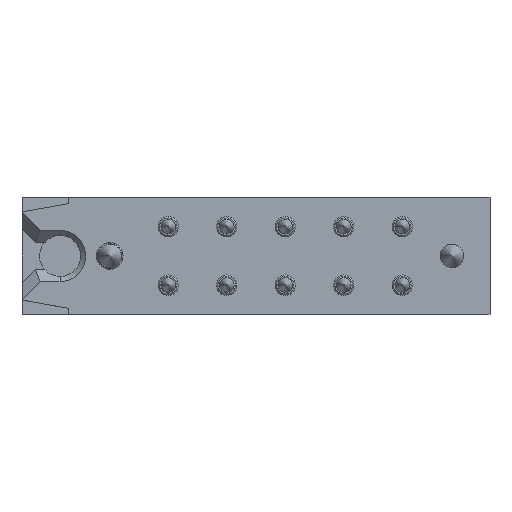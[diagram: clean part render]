
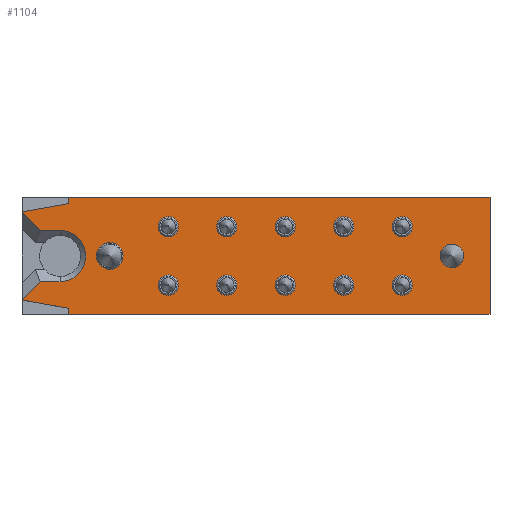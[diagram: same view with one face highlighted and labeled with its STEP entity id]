
A CAD part, top view. The second image highlights one B-rep face of the part: STEP entity #1104.
In plain terms, the highlighted planar face has unit normal (0, 0, 1).
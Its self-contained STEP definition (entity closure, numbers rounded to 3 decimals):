
#179=CIRCLE('',#1240,3.5);
#180=CIRCLE('',#1241,3.5);
#181=CIRCLE('',#1242,3.5);
#182=CIRCLE('',#1243,3.5);
#183=CIRCLE('',#1244,3.5);
#184=CIRCLE('',#1245,3.5);
#185=CIRCLE('',#1246,3.5);
#186=CIRCLE('',#1247,3.5);
#187=CIRCLE('',#1248,4.);
#188=CIRCLE('',#1249,3.5);
#189=CIRCLE('',#1250,3.5);
#190=CIRCLE('',#1251,4.55);
#191=CIRCLE('',#1252,8.75);
#265=ORIENTED_EDGE('',*,*,#491,.T.);
#266=ORIENTED_EDGE('',*,*,#492,.T.);
#267=ORIENTED_EDGE('',*,*,#493,.T.);
#268=ORIENTED_EDGE('',*,*,#494,.T.);
#269=ORIENTED_EDGE('',*,*,#495,.T.);
#270=ORIENTED_EDGE('',*,*,#496,.T.);
#271=ORIENTED_EDGE('',*,*,#497,.T.);
#272=ORIENTED_EDGE('',*,*,#498,.T.);
#273=ORIENTED_EDGE('',*,*,#499,.T.);
#274=ORIENTED_EDGE('',*,*,#500,.T.);
#275=ORIENTED_EDGE('',*,*,#501,.T.);
#276=ORIENTED_EDGE('',*,*,#502,.T.);
#277=ORIENTED_EDGE('',*,*,#503,.T.);
#278=ORIENTED_EDGE('',*,*,#504,.T.);
#279=ORIENTED_EDGE('',*,*,#471,.F.);
#280=ORIENTED_EDGE('',*,*,#505,.F.);
#281=ORIENTED_EDGE('',*,*,#506,.F.);
#282=ORIENTED_EDGE('',*,*,#490,.F.);
#283=ORIENTED_EDGE('',*,*,#486,.F.);
#284=ORIENTED_EDGE('',*,*,#482,.F.);
#285=ORIENTED_EDGE('',*,*,#507,.F.);
#286=ORIENTED_EDGE('',*,*,#508,.F.);
#287=ORIENTED_EDGE('',*,*,#478,.F.);
#288=ORIENTED_EDGE('',*,*,#509,.T.);
#289=ORIENTED_EDGE('',*,*,#510,.T.);
#290=ORIENTED_EDGE('',*,*,#511,.T.);
#471=EDGE_CURVE('',#585,#586,#682,.T.);
#478=EDGE_CURVE('',#592,#593,#689,.T.);
#482=EDGE_CURVE('',#596,#597,#693,.T.);
#486=EDGE_CURVE('',#597,#600,#697,.T.);
#490=EDGE_CURVE('',#600,#602,#701,.T.);
#491=EDGE_CURVE('',#603,#603,#179,.T.);
#492=EDGE_CURVE('',#604,#604,#180,.T.);
#493=EDGE_CURVE('',#605,#605,#181,.T.);
#494=EDGE_CURVE('',#606,#606,#182,.T.);
#495=EDGE_CURVE('',#607,#607,#183,.T.);
#496=EDGE_CURVE('',#608,#608,#184,.T.);
#497=EDGE_CURVE('',#609,#609,#185,.T.);
#498=EDGE_CURVE('',#610,#610,#186,.T.);
#499=EDGE_CURVE('',#611,#611,#187,.T.);
#500=EDGE_CURVE('',#612,#612,#188,.T.);
#501=EDGE_CURVE('',#613,#613,#189,.T.);
#502=EDGE_CURVE('',#614,#614,#190,.T.);
#503=EDGE_CURVE('',#615,#616,#702,.T.);
#504=EDGE_CURVE('',#616,#586,#703,.T.);
#505=EDGE_CURVE('',#617,#585,#704,.T.);
#506=EDGE_CURVE('',#602,#617,#705,.T.);
#507=EDGE_CURVE('',#618,#596,#706,.T.);
#508=EDGE_CURVE('',#593,#618,#707,.T.);
#509=EDGE_CURVE('',#592,#619,#708,.T.);
#510=EDGE_CURVE('',#619,#620,#709,.T.);
#511=EDGE_CURVE('',#620,#615,#191,.T.);
#585=VERTEX_POINT('',#1781);
#586=VERTEX_POINT('',#1782);
#592=VERTEX_POINT('',#1795);
#593=VERTEX_POINT('',#1797);
#596=VERTEX_POINT('',#1804);
#597=VERTEX_POINT('',#1806);
#600=VERTEX_POINT('',#1814);
#602=VERTEX_POINT('',#1819);
#603=VERTEX_POINT('',#1824);
#604=VERTEX_POINT('',#1826);
#605=VERTEX_POINT('',#1828);
#606=VERTEX_POINT('',#1830);
#607=VERTEX_POINT('',#1832);
#608=VERTEX_POINT('',#1834);
#609=VERTEX_POINT('',#1836);
#610=VERTEX_POINT('',#1838);
#611=VERTEX_POINT('',#1840);
#612=VERTEX_POINT('',#1842);
#613=VERTEX_POINT('',#1844);
#614=VERTEX_POINT('',#1846);
#615=VERTEX_POINT('',#1848);
#616=VERTEX_POINT('',#1849);
#617=VERTEX_POINT('',#1852);
#618=VERTEX_POINT('',#1855);
#619=VERTEX_POINT('',#1858);
#620=VERTEX_POINT('',#1860);
#682=LINE('',#1780,#732);
#689=LINE('',#1796,#739);
#693=LINE('',#1805,#743);
#697=LINE('',#1813,#747);
#701=LINE('',#1821,#751);
#702=LINE('',#1847,#752);
#703=LINE('',#1850,#753);
#704=LINE('',#1851,#754);
#705=LINE('',#1853,#755);
#706=LINE('',#1854,#756);
#707=LINE('',#1856,#757);
#708=LINE('',#1857,#758);
#709=LINE('',#1859,#759);
#732=VECTOR('',#1402,1000.);
#739=VECTOR('',#1411,1000.);
#743=VECTOR('',#1417,1000.);
#747=VECTOR('',#1423,1000.);
#751=VECTOR('',#1429,1000.);
#752=VECTOR('',#1456,1000.);
#753=VECTOR('',#1457,1000.);
#754=VECTOR('',#1458,1000.);
#755=VECTOR('',#1459,1000.);
#756=VECTOR('',#1460,1000.);
#757=VECTOR('',#1461,1000.);
#758=VECTOR('',#1462,1000.);
#759=VECTOR('',#1463,1000.);
#787=EDGE_LOOP('',(#265));
#788=EDGE_LOOP('',(#266));
#789=EDGE_LOOP('',(#267));
#790=EDGE_LOOP('',(#268));
#791=EDGE_LOOP('',(#269));
#792=EDGE_LOOP('',(#270));
#793=EDGE_LOOP('',(#271));
#794=EDGE_LOOP('',(#272));
#795=EDGE_LOOP('',(#273));
#796=EDGE_LOOP('',(#274));
#797=EDGE_LOOP('',(#275));
#798=EDGE_LOOP('',(#276));
#799=EDGE_LOOP('',(#277,#278,#279,#280,#281,#282,#283,#284,#285,#286,#287,
#288,#289,#290));
#930=FACE_BOUND('',#787,.T.);
#931=FACE_BOUND('',#788,.T.);
#932=FACE_BOUND('',#789,.T.);
#933=FACE_BOUND('',#790,.T.);
#934=FACE_BOUND('',#791,.T.);
#935=FACE_BOUND('',#792,.T.);
#936=FACE_BOUND('',#793,.T.);
#937=FACE_BOUND('',#794,.T.);
#938=FACE_BOUND('',#795,.T.);
#939=FACE_BOUND('',#796,.T.);
#940=FACE_BOUND('',#797,.T.);
#941=FACE_BOUND('',#798,.T.);
#942=FACE_BOUND('',#799,.T.);
#1075=PLANE('',#1239);
#1104=ADVANCED_FACE('',(#930,#931,#932,#933,#934,#935,#936,#937,#938,#939,
#940,#941,#942),#1075,.F.);
#1239=AXIS2_PLACEMENT_3D('',#1822,#1430,#1431);
#1240=AXIS2_PLACEMENT_3D('',#1823,#1432,#1433);
#1241=AXIS2_PLACEMENT_3D('',#1825,#1434,#1435);
#1242=AXIS2_PLACEMENT_3D('',#1827,#1436,#1437);
#1243=AXIS2_PLACEMENT_3D('',#1829,#1438,#1439);
#1244=AXIS2_PLACEMENT_3D('',#1831,#1440,#1441);
#1245=AXIS2_PLACEMENT_3D('',#1833,#1442,#1443);
#1246=AXIS2_PLACEMENT_3D('',#1835,#1444,#1445);
#1247=AXIS2_PLACEMENT_3D('',#1837,#1446,#1447);
#1248=AXIS2_PLACEMENT_3D('',#1839,#1448,#1449);
#1249=AXIS2_PLACEMENT_3D('',#1841,#1450,#1451);
#1250=AXIS2_PLACEMENT_3D('',#1843,#1452,#1453);
#1251=AXIS2_PLACEMENT_3D('',#1845,#1454,#1455);
#1252=AXIS2_PLACEMENT_3D('',#1861,#1464,#1465);
#1402=DIRECTION('',(0.,1.,0.));
#1411=DIRECTION('',(0.,1.,0.));
#1417=DIRECTION('',(1.,0.,0.));
#1423=DIRECTION('',(0.,-1.,0.));
#1429=DIRECTION('',(-1.,0.,0.));
#1430=DIRECTION('',(0.,0.,-1.));
#1431=DIRECTION('',(-1.,0.,0.));
#1432=DIRECTION('',(0.,0.,-1.));
#1433=DIRECTION('',(-1.,0.,0.));
#1434=DIRECTION('',(0.,0.,-1.));
#1435=DIRECTION('',(-1.,0.,0.));
#1436=DIRECTION('',(0.,0.,-1.));
#1437=DIRECTION('',(-1.,0.,0.));
#1438=DIRECTION('',(0.,0.,-1.));
#1439=DIRECTION('',(-1.,0.,0.));
#1440=DIRECTION('',(0.,0.,-1.));
#1441=DIRECTION('',(-1.,0.,0.));
#1442=DIRECTION('',(0.,0.,-1.));
#1443=DIRECTION('',(-1.,0.,0.));
#1444=DIRECTION('',(0.,0.,-1.));
#1445=DIRECTION('',(-1.,0.,0.));
#1446=DIRECTION('',(0.,0.,-1.));
#1447=DIRECTION('',(-1.,0.,0.));
#1448=DIRECTION('',(0.,0.,-1.));
#1449=DIRECTION('',(-1.,0.,0.));
#1450=DIRECTION('',(0.,0.,-1.));
#1451=DIRECTION('',(-1.,0.,0.));
#1452=DIRECTION('',(0.,0.,-1.));
#1453=DIRECTION('',(-1.,0.,0.));
#1454=DIRECTION('',(0.,0.,-1.));
#1455=DIRECTION('',(-1.,0.,0.));
#1456=DIRECTION('',(-1.,0.,0.));
#1457=DIRECTION('',(-0.707,-0.707,0.));
#1458=DIRECTION('',(-0.985,0.174,0.));
#1459=DIRECTION('',(0.,1.,0.));
#1460=DIRECTION('',(0.,1.,0.));
#1461=DIRECTION('',(0.985,0.174,0.));
#1462=DIRECTION('',(0.707,-0.707,0.));
#1463=DIRECTION('',(1.,0.,0.));
#1464=DIRECTION('',(0.,0.,-1.));
#1465=DIRECTION('',(-1.,0.,0.));
#1780=CARTESIAN_POINT('',(0.,-20.,5.));
#1781=CARTESIAN_POINT('',(0.,-15.087,5.));
#1782=CARTESIAN_POINT('',(0.,-14.99,5.));
#1795=CARTESIAN_POINT('',(0.,14.99,5.));
#1796=CARTESIAN_POINT('',(0.,-20.,5.));
#1797=CARTESIAN_POINT('',(0.,15.087,5.));
#1804=CARTESIAN_POINT('',(15.908,20.,5.));
#1805=CARTESIAN_POINT('',(0.,20.,5.));
#1806=CARTESIAN_POINT('',(160.,20.,5.));
#1813=CARTESIAN_POINT('',(160.,20.,5.));
#1814=CARTESIAN_POINT('',(160.,-20.,5.));
#1819=CARTESIAN_POINT('',(15.908,-20.,5.));
#1821=CARTESIAN_POINT('',(160.,-20.,5.));
#1822=CARTESIAN_POINT('',(0.,0.,5.));
#1823=CARTESIAN_POINT('',(50.,10.,5.));
#1824=CARTESIAN_POINT('',(46.5,10.,5.));
#1825=CARTESIAN_POINT('',(50.,-10.,5.));
#1826=CARTESIAN_POINT('',(46.5,-10.,5.));
#1827=CARTESIAN_POINT('',(70.,10.,5.));
#1828=CARTESIAN_POINT('',(66.5,10.,5.));
#1829=CARTESIAN_POINT('',(70.,-10.,5.));
#1830=CARTESIAN_POINT('',(66.5,-10.,5.));
#1831=CARTESIAN_POINT('',(90.,10.,5.));
#1832=CARTESIAN_POINT('',(86.5,10.,5.));
#1833=CARTESIAN_POINT('',(90.,-10.,5.));
#1834=CARTESIAN_POINT('',(86.5,-10.,5.));
#1835=CARTESIAN_POINT('',(110.,10.,5.));
#1836=CARTESIAN_POINT('',(106.5,10.,5.));
#1837=CARTESIAN_POINT('',(110.,-10.,5.));
#1838=CARTESIAN_POINT('',(106.5,-10.,5.));
#1839=CARTESIAN_POINT('',(147.,0.,5.));
#1840=CARTESIAN_POINT('',(143.,0.,5.));
#1841=CARTESIAN_POINT('',(130.,10.,5.));
#1842=CARTESIAN_POINT('',(126.5,10.,5.));
#1843=CARTESIAN_POINT('',(130.,-10.,5.));
#1844=CARTESIAN_POINT('',(126.5,-10.,5.));
#1845=CARTESIAN_POINT('',(30.,0.,5.));
#1846=CARTESIAN_POINT('',(25.45,0.,5.));
#1847=CARTESIAN_POINT('',(0.,-8.75,5.));
#1848=CARTESIAN_POINT('',(13.,-8.75,5.));
#1849=CARTESIAN_POINT('',(6.24,-8.75,5.));
#1850=CARTESIAN_POINT('',(2.97,-12.02,5.));
#1851=CARTESIAN_POINT('',(15.908,-17.892,5.));
#1852=CARTESIAN_POINT('',(15.908,-17.892,5.));
#1853=CARTESIAN_POINT('',(15.908,-20.,5.));
#1854=CARTESIAN_POINT('',(15.908,17.892,5.));
#1855=CARTESIAN_POINT('',(15.908,17.892,5.));
#1856=CARTESIAN_POINT('',(0.,15.087,5.));
#1857=CARTESIAN_POINT('',(7.47,7.52,5.));
#1858=CARTESIAN_POINT('',(6.24,8.75,5.));
#1859=CARTESIAN_POINT('',(0.,8.75,5.));
#1860=CARTESIAN_POINT('',(13.,8.75,5.));
#1861=CARTESIAN_POINT('',(13.,0.,5.));
